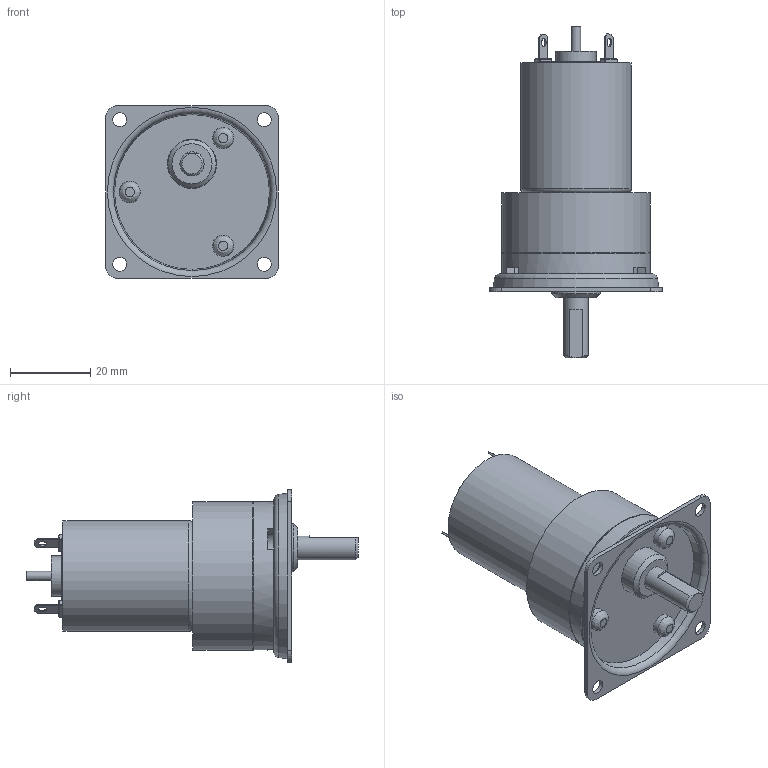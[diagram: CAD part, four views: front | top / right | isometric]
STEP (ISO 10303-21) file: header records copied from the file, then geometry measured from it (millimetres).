
FILE_DESCRIPTION((''),'2;1');
FILE_NAME('C:\Documents and Settings\SSEGAWA\デスクトップ\TP-2732D-PKS-2.STP','2013-07-01T14:00:08',('SSEGAWA'),(''),'Autodesk Inventor 2010','Autodesk Inventor 2010','');
FILE_SCHEMA(('CONFIG_CONTROL_DESIGN'));
Length unit declared in the file: millimetre
Products named in the file (5): tp_2732def_pks_2; pks_2; ks_2; □43; tp_2732d,e,f
Assembly tree (4 placements, depth 3):
  tp_2732def_pks_2
    pks_2
      ks_2
      □43
    tp_2732d,e,f
Bounding box: 43 x 82.6 x 43 mm (x, y, z)
Volume: 44138.9 mm3; surface area: 14451.7 mm2
Topology: 4 solids, 4 shells, 192 faces, 432 edges, 278 vertices
Faces by surface type: plane 106, cylinder 44, bspline 32, torus 6, cone 4
Full cylindrical faces by diameter (mm): 2 x2, 2.305 x2, 2.5 x5, 5.3 x3, 6 x1, 9 x2, 10 x2, 12 x1, 12.2 x1, 19 x1, 26.7 x1, 27.7 x1, 36.6 x1, 37 x2
Entity records: 5411 total; most frequent: CARTESIAN_POINT 1337, DIRECTION 831, ORIENTED_EDGE 702, EDGE_CURVE 351, AXIS2_PLACEMENT_3D 313, EDGE_LOOP 293, VERTEX_POINT 254, VECTOR 205
